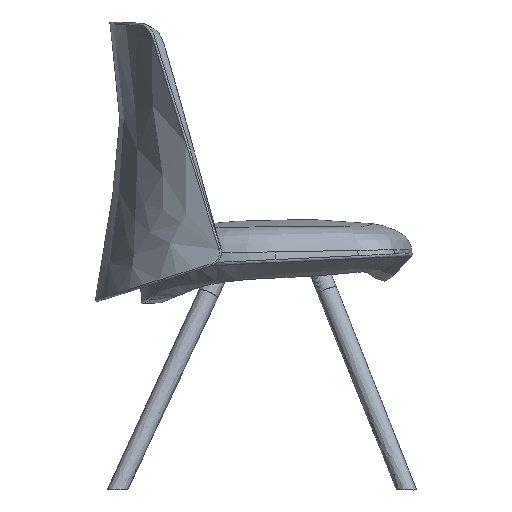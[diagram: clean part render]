
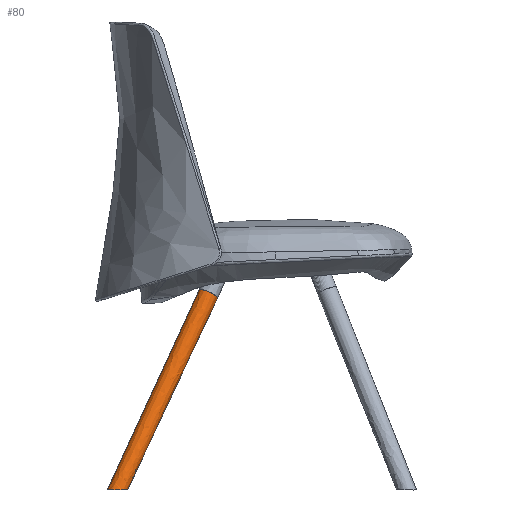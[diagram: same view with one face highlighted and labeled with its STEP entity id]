
A CAD part, left-side view. The second image highlights one B-rep face of the part: STEP entity #80.
In plain terms, the highlighted free-form (B-spline) face has degree [3, 2] with [4, 7] control points.
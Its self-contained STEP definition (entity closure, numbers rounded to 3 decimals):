
#80=ADVANCED_FACE('',(#179),#1530,.T.);
#179=FACE_OUTER_BOUND('',#278,.T.);
#278=EDGE_LOOP('',(#395,#396,#397,#398));
#395=ORIENTED_EDGE('',*,*,#847,.T.);
#396=ORIENTED_EDGE('',*,*,#845,.T.);
#397=ORIENTED_EDGE('',*,*,#844,.T.);
#398=ORIENTED_EDGE('',*,*,#846,.F.);
#844=EDGE_CURVE('',#1361,#1363,#1098,.T.);
#845=EDGE_CURVE('',#1360,#1361,#1099,.T.);
#846=EDGE_CURVE('',#1362,#1363,#1100,.T.);
#847=EDGE_CURVE('',#1362,#1360,#1189,.T.);
#1098=(
BOUNDED_CURVE()
B_SPLINE_CURVE(2,(#2039,#2040,#2041,#2042,#2043,#2044,#2045),
 .UNSPECIFIED.,.F.,.F.)
B_SPLINE_CURVE_WITH_KNOTS((3,2,2,3),(0.,10.536,38.025,
65.514),.UNSPECIFIED.)
CURVE()
GEOMETRIC_REPRESENTATION_ITEM()
RATIONAL_B_SPLINE_CURVE((1.,0.956,1.,0.707,1.,0.707,
1.))
REPRESENTATION_ITEM('')
);
#1099=(
BOUNDED_CURVE()
B_SPLINE_CURVE(3,(#2046,#2047,#2048,#2049),.UNSPECIFIED.,.F.,.F.)
B_SPLINE_CURVE_WITH_KNOTS((4,4),(36.41,418.11),
 .UNSPECIFIED.)
CURVE()
GEOMETRIC_REPRESENTATION_ITEM()
RATIONAL_B_SPLINE_CURVE((1.,1.,1.,1.))
REPRESENTATION_ITEM('')
);
#1100=(
BOUNDED_CURVE()
B_SPLINE_CURVE(3,(#2050,#2051,#2052,#2053),.UNSPECIFIED.,.F.,.F.)
B_SPLINE_CURVE_WITH_KNOTS((4,4),(20.246,418.11),
 .UNSPECIFIED.)
CURVE()
GEOMETRIC_REPRESENTATION_ITEM()
RATIONAL_B_SPLINE_CURVE((1.,1.,1.,1.))
REPRESENTATION_ITEM('')
);
#1189=B_SPLINE_CURVE_WITH_KNOTS('',3,(#2054,#2055,#2056,#2057,#2058,#2059,
#2060,#2061,#2062,#2063,#2064,#2065,#2066,#2067,#2068,#2069,#2070,#2071),
 .UNSPECIFIED.,.F.,.F.,(4,2,3,2,2,3,2,4),(44.995,58.584,
71.874,78.922,85.968,100.16,104.995,
109.833),.UNSPECIFIED.);
#1360=VERTEX_POINT('',#2022);
#1361=VERTEX_POINT('',#2023);
#1362=VERTEX_POINT('',#2024);
#1363=VERTEX_POINT('',#2025);
#1530=(
BOUNDED_SURFACE()
B_SPLINE_SURFACE(3,2,((#1994,#1995,#1996,#1997,#1998,#1999,#2000),(#2001,
#2002,#2003,#2004,#2005,#2006,#2007),(#2008,#2009,#2010,#2011,#2012,#2013,
#2014),(#2015,#2016,#2017,#2018,#2019,#2020,#2021)),.UNSPECIFIED.,.F.,.F.,
 .F.)
B_SPLINE_SURFACE_WITH_KNOTS((4,4),(3,2,2,3),(0.,418.11),(0.,10.536,
38.025,65.514),.UNSPECIFIED.)
GEOMETRIC_REPRESENTATION_ITEM()
RATIONAL_B_SPLINE_SURFACE(((0.862,0.888,1.,0.707,
1.,0.707,1.),(0.862,0.888,1.,0.707,
1.,0.707,1.),(0.862,0.888,1.,0.707,
1.,0.707,1.),(0.862,0.888,1.,0.707,
1.,0.707,1.)))
REPRESENTATION_ITEM('')
SURFACE()
);
#1994=CARTESIAN_POINT('',(-215.842,236.708,-32.091));
#1995=CARTESIAN_POINT('',(-219.783,233.84,-32.405));
#1996=CARTESIAN_POINT('',(-224.538,233.364,-31.398));
#1997=CARTESIAN_POINT('',(-240.117,231.805,-28.098));
#1998=CARTESIAN_POINT('',(-240.14,246.314,-21.353));
#1999=CARTESIAN_POINT('',(-240.163,260.823,-14.609));
#2000=CARTESIAN_POINT('',(-224.585,262.381,-17.908));
#2001=CARTESIAN_POINT('',(-183.782,179.198,90.747));
#2002=CARTESIAN_POINT('',(-187.846,176.24,90.423));
#2003=CARTESIAN_POINT('',(-192.75,175.75,91.461));
#2004=CARTESIAN_POINT('',(-208.815,174.142,94.864));
#2005=CARTESIAN_POINT('',(-208.839,189.104,101.82));
#2006=CARTESIAN_POINT('',(-208.863,204.067,108.775));
#2007=CARTESIAN_POINT('',(-192.798,205.674,105.372));
#2008=CARTESIAN_POINT('',(-151.722,121.689,213.584));
#2009=CARTESIAN_POINT('',(-155.909,118.641,213.25));
#2010=CARTESIAN_POINT('',(-160.962,118.135,214.321));
#2011=CARTESIAN_POINT('',(-177.514,116.479,217.826));
#2012=CARTESIAN_POINT('',(-177.539,131.895,224.993));
#2013=CARTESIAN_POINT('',(-177.563,147.311,232.159));
#2014=CARTESIAN_POINT('',(-161.011,148.967,228.653));
#2015=CARTESIAN_POINT('',(-119.662,64.179,336.422));
#2016=CARTESIAN_POINT('',(-123.973,61.042,336.078));
#2017=CARTESIAN_POINT('',(-129.174,60.521,337.18));
#2018=CARTESIAN_POINT('',(-146.213,58.816,340.789));
#2019=CARTESIAN_POINT('',(-146.238,74.686,348.166));
#2020=CARTESIAN_POINT('',(-146.263,90.555,355.543));
#2021=CARTESIAN_POINT('',(-129.225,92.26,351.934));
#2022=CARTESIAN_POINT('',(-207.466,221.684,0.));
#2023=CARTESIAN_POINT('',(-119.662,64.179,336.422));
#2024=CARTESIAN_POINT('',(-219.967,254.144,0.));
#2025=CARTESIAN_POINT('',(-129.225,92.26,351.934));
#2039=CARTESIAN_POINT('',(-119.662,64.179,336.422));
#2040=CARTESIAN_POINT('',(-123.973,61.042,336.078));
#2041=CARTESIAN_POINT('',(-129.174,60.521,337.18));
#2042=CARTESIAN_POINT('',(-146.213,58.816,340.789));
#2043=CARTESIAN_POINT('',(-146.238,74.686,348.166));
#2044=CARTESIAN_POINT('',(-146.263,90.555,355.543));
#2045=CARTESIAN_POINT('',(-129.225,92.26,351.934));
#2046=CARTESIAN_POINT('',(-207.466,221.684,0.));
#2047=CARTESIAN_POINT('',(-178.198,169.182,112.141));
#2048=CARTESIAN_POINT('',(-148.93,116.681,224.281));
#2049=CARTESIAN_POINT('',(-119.662,64.179,336.422));
#2050=CARTESIAN_POINT('',(-219.967,254.144,0.));
#2051=CARTESIAN_POINT('',(-189.72,200.182,117.311));
#2052=CARTESIAN_POINT('',(-159.472,146.221,234.623));
#2053=CARTESIAN_POINT('',(-129.225,92.26,351.934));
#2054=CARTESIAN_POINT('',(-219.967,254.144,0.));
#2055=CARTESIAN_POINT('',(-224.458,254.133,0.));
#2056=CARTESIAN_POINT('',(-228.589,252.157,0.));
#2057=CARTESIAN_POINT('',(-234.093,245.159,0.));
#2058=CARTESIAN_POINT('',(-235.139,240.717,0.));
#2059=CARTESIAN_POINT('',(-234.714,236.396,0.));
#2060=CARTESIAN_POINT('',(-234.487,234.092,0.));
#2061=CARTESIAN_POINT('',(-233.847,231.835,0.));
#2062=CARTESIAN_POINT('',(-231.862,227.655,0.));
#2063=CARTESIAN_POINT('',(-230.519,225.734,0.));
#2064=CARTESIAN_POINT('',(-225.603,220.787,0.));
#2065=CARTESIAN_POINT('',(-221.147,218.637,0.));
#2066=CARTESIAN_POINT('',(-216.415,218.64,0.));
#2067=CARTESIAN_POINT('',(-214.806,218.641,0.));
#2068=CARTESIAN_POINT('',(-213.21,218.894,0.));
#2069=CARTESIAN_POINT('',(-210.158,219.925,0.));
#2070=CARTESIAN_POINT('',(-208.736,220.692,0.));
#2071=CARTESIAN_POINT('',(-207.466,221.684,0.));
